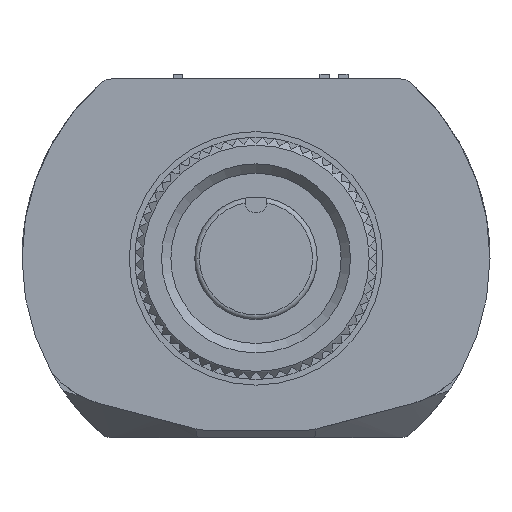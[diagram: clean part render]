
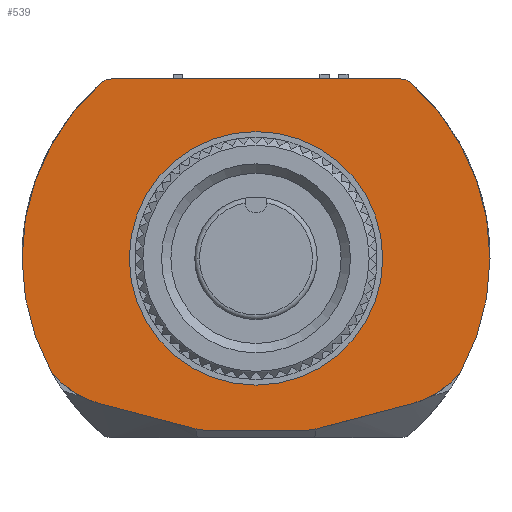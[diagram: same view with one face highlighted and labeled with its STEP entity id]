
A CAD part, front view. The second image highlights one B-rep face of the part: STEP entity #539.
In plain terms, the highlighted planar face has unit normal (0, -1, 0).
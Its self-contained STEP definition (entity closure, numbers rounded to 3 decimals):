
#539 = ADVANCED_FACE( '', ( #1560, #1561 ), #1562, .T. );
#1560 = FACE_BOUND( '', #2678, .T. );
#1561 = FACE_OUTER_BOUND( '', #2679, .T. );
#1562 = PLANE( '', #2680 );
#2678 = EDGE_LOOP( '', ( #6954 ) );
#2679 = EDGE_LOOP( '', ( #6955, #6956, #6957, #6958, #6959, #6960, #6961, #6962, #6963, #6964, #6965, #6966 ) );
#2680 = AXIS2_PLACEMENT_3D( '', #6967, #6968, #6969 );
#6954 = ORIENTED_EDGE( '', *, *, #8912, .F. );
#6955 = ORIENTED_EDGE( '', *, *, #8913, .T. );
#6956 = ORIENTED_EDGE( '', *, *, #8639, .T. );
#6957 = ORIENTED_EDGE( '', *, *, #8914, .T. );
#6958 = ORIENTED_EDGE( '', *, *, #8915, .T. );
#6959 = ORIENTED_EDGE( '', *, *, #8916, .T. );
#6960 = ORIENTED_EDGE( '', *, *, #8917, .T. );
#6961 = ORIENTED_EDGE( '', *, *, #8604, .T. );
#6962 = ORIENTED_EDGE( '', *, *, #8602, .T. );
#6963 = ORIENTED_EDGE( '', *, *, #8918, .T. );
#6964 = ORIENTED_EDGE( '', *, *, #8919, .T. );
#6965 = ORIENTED_EDGE( '', *, *, #8920, .T. );
#6966 = ORIENTED_EDGE( '', *, *, #8921, .T. );
#6967 = CARTESIAN_POINT( '', ( -9.411, -15.45, 10.5 ) );
#6968 = DIRECTION( '', ( 0., -1., 0. ) );
#6969 = DIRECTION( '', ( 0., 0., -1. ) );
#8602 = EDGE_CURVE( '', #10967, #10965, #10968, .T. );
#8604 = EDGE_CURVE( '', #10970, #10967, #10971, .T. );
#8639 = EDGE_CURVE( '', #11035, #11033, #11036, .T. );
#8912 = EDGE_CURVE( '', #11391, #11391, #11392, .T. );
#8913 = EDGE_CURVE( '', #11393, #11035, #11394, .T. );
#8914 = EDGE_CURVE( '', #11033, #11395, #11396, .T. );
#8915 = EDGE_CURVE( '', #11395, #11397, #11398, .T. );
#8916 = EDGE_CURVE( '', #11397, #11399, #11400, .T. );
#8917 = EDGE_CURVE( '', #11399, #10970, #11401, .T. );
#8918 = EDGE_CURVE( '', #10965, #11402, #11403, .T. );
#8919 = EDGE_CURVE( '', #11402, #11404, #11405, .T. );
#8920 = EDGE_CURVE( '', #11404, #11406, #11407, .T. );
#8921 = EDGE_CURVE( '', #11406, #11393, #11408, .T. );
#10965 = VERTEX_POINT( '', #15047 );
#10967 = VERTEX_POINT( '', #15050 );
#10968 = LINE( '', #15051, #15052 );
#10970 = VERTEX_POINT( '', #15055 );
#10971 = CIRCLE( '', #15056, 6. );
#11033 = VERTEX_POINT( '', #15158 );
#11035 = VERTEX_POINT( '', #15161 );
#11036 = CIRCLE( '', #15162, 15. );
#11391 = VERTEX_POINT( '', #15732 );
#11392 = CIRCLE( '', #15733, 8.125 );
#11393 = VERTEX_POINT( '', #15734 );
#11394 = CIRCLE( '', #15735, 6. );
#11395 = VERTEX_POINT( '', #15736 );
#11396 = CIRCLE( '', #15737, 1. );
#11397 = VERTEX_POINT( '', #15738 );
#11398 = LINE( '', #15739, #15740 );
#11399 = VERTEX_POINT( '', #15741 );
#11400 = CIRCLE( '', #15742, 1. );
#11401 = CIRCLE( '', #15743, 15. );
#11402 = VERTEX_POINT( '', #15744 );
#11403 = CIRCLE( '', #15745, 6. );
#11404 = VERTEX_POINT( '', #15746 );
#11405 = LINE( '', #15747, #15748 );
#11406 = VERTEX_POINT( '', #15749 );
#11407 = CIRCLE( '', #15750, 6. );
#11408 = LINE( '', #15751, #15752 );
#15047 = CARTESIAN_POINT( '', ( -4.126, -15.45, -10.862 ) );
#15050 = CARTESIAN_POINT( '', ( -9.977, -15.45, -9.321 ) );
#15051 = CARTESIAN_POINT( '', ( -9.977, -15.45, -9.321 ) );
#15052 = VECTOR( '', #17201, 1000. );
#15055 = CARTESIAN_POINT( '', ( -13.095, -15.45, -7.315 ) );
#15056 = AXIS2_PLACEMENT_3D( '', #17203, #17204, #17205 );
#15158 = CARTESIAN_POINT( '', ( 9.922, -15.45, 11.25 ) );
#15161 = CARTESIAN_POINT( '', ( 13.095, -15.45, -7.315 ) );
#15162 = AXIS2_PLACEMENT_3D( '', #17263, #17264, #17265 );
#15732 = CARTESIAN_POINT( '', ( 0., -15.45, -8.125 ) );
#15733 = AXIS2_PLACEMENT_3D( '', #17821, #17822, #17823 );
#15734 = CARTESIAN_POINT( '', ( 9.977, -15.45, -9.321 ) );
#15735 = AXIS2_PLACEMENT_3D( '', #17824, #17825, #17826 );
#15736 = CARTESIAN_POINT( '', ( 9.26, -15.45, 11.5 ) );
#15737 = AXIS2_PLACEMENT_3D( '', #17827, #17828, #17829 );
#15738 = CARTESIAN_POINT( '', ( -9.26, -15.45, 11.5 ) );
#15739 = CARTESIAN_POINT( '', ( 9.411, -15.45, 11.5 ) );
#15740 = VECTOR( '', #17830, 1000. );
#15741 = CARTESIAN_POINT( '', ( -9.922, -15.45, 11.25 ) );
#15742 = AXIS2_PLACEMENT_3D( '', #17831, #17832, #17833 );
#15743 = AXIS2_PLACEMENT_3D( '', #17834, #17835, #17836 );
#15744 = CARTESIAN_POINT( '', ( -2.598, -15.45, -11.06 ) );
#15745 = AXIS2_PLACEMENT_3D( '', #17837, #17838, #17839 );
#15746 = CARTESIAN_POINT( '', ( 2.598, -15.45, -11.06 ) );
#15747 = CARTESIAN_POINT( '', ( -2.598, -15.45, -11.06 ) );
#15748 = VECTOR( '', #17840, 1000. );
#15749 = CARTESIAN_POINT( '', ( 4.126, -15.45, -10.862 ) );
#15750 = AXIS2_PLACEMENT_3D( '', #17841, #17842, #17843 );
#15751 = CARTESIAN_POINT( '', ( 4.126, -15.45, -10.862 ) );
#15752 = VECTOR( '', #17844, 1000. );
#17201 = DIRECTION( '', ( 0.967, 0., -0.255 ) );
#17203 = CARTESIAN_POINT( '', ( -8.449, -15.45, -3.519 ) );
#17204 = DIRECTION( '', ( 0., -1., 0. ) );
#17205 = DIRECTION( '', ( 1., 0., 0. ) );
#17263 = CARTESIAN_POINT( '', ( 0., -15.45, 0. ) );
#17264 = DIRECTION( '', ( 0., -1., 0. ) );
#17265 = DIRECTION( '', ( 0., 0., -1. ) );
#17821 = CARTESIAN_POINT( '', ( 0., -15.45, 0. ) );
#17822 = DIRECTION( '', ( 0., -1., 0. ) );
#17823 = DIRECTION( '', ( 0., 0., -1. ) );
#17824 = CARTESIAN_POINT( '', ( 8.449, -15.45, -3.519 ) );
#17825 = DIRECTION( '', ( 0., -1., 0. ) );
#17826 = DIRECTION( '', ( 1., 0., 0. ) );
#17827 = CARTESIAN_POINT( '', ( 9.26, -15.45, 10.5 ) );
#17828 = DIRECTION( '', ( 0., -1., 0. ) );
#17829 = DIRECTION( '', ( 0., 0., -1. ) );
#17830 = DIRECTION( '', ( -1., 0., 0. ) );
#17831 = CARTESIAN_POINT( '', ( -9.26, -15.45, 10.5 ) );
#17832 = DIRECTION( '', ( 0., -1., 0. ) );
#17833 = DIRECTION( '', ( 0., 0., -1. ) );
#17834 = CARTESIAN_POINT( '', ( 0., -15.45, 0. ) );
#17835 = DIRECTION( '', ( 0., -1., 0. ) );
#17836 = DIRECTION( '', ( 0., 0., -1. ) );
#17837 = CARTESIAN_POINT( '', ( -2.598, -15.45, -5.06 ) );
#17838 = DIRECTION( '', ( 0., -1., 0. ) );
#17839 = DIRECTION( '', ( 1., 0., 0. ) );
#17840 = DIRECTION( '', ( 1., 0., 0. ) );
#17841 = CARTESIAN_POINT( '', ( 2.598, -15.45, -5.06 ) );
#17842 = DIRECTION( '', ( 0., -1., 0. ) );
#17843 = DIRECTION( '', ( 1., 0., 0. ) );
#17844 = DIRECTION( '', ( 0.967, 0., 0.255 ) );
